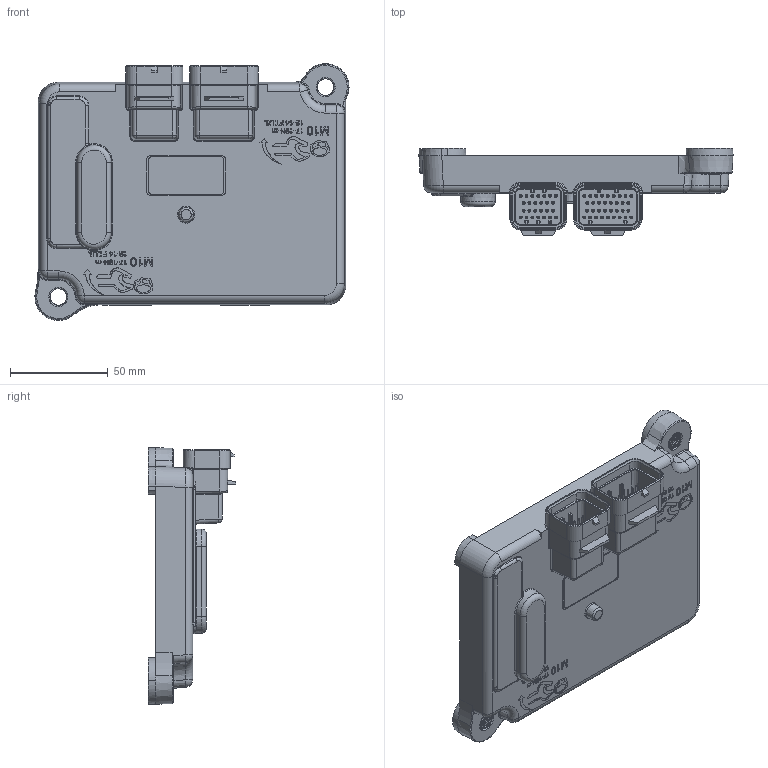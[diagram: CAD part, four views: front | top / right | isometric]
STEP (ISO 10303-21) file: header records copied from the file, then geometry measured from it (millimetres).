
FILE_DESCRIPTION((''),'2;1');
FILE_NAME('VA1028051R00V1','2020-09-03T',('KK10031'),('Parker Hannifin Canada'),'CREO PARAMETRIC BY PTC INC, 2015200','CREO PARAMETRIC BY PTC INC, 2015200','');
FILE_SCHEMA(('CONFIG_CONTROL_DESIGN'));
Products named in the file (1): VA1028051R00V1
Bounding box: 160.31 x 44.76 x 131.04 mm (x, y, z)
Volume: 292601.5 mm3; surface area: 60996.5 mm2
Topology: 1 solids, 1 shells, 1725 faces, 4440 edges, 2775 vertices
Faces by surface type: plane 644, cylinder 363, cone 276, sphere 154, extrusion 133, bspline 95, torus 60
Entity records: 65106 total; most frequent: CARTESIAN_POINT 24155, ORIENTED_EDGE 8722, DIRECTION 8112, EDGE_CURVE 4361, AXIS2_PLACEMENT_3D 2792, VERTEX_POINT 2775, VECTOR 2528, LINE 2395
